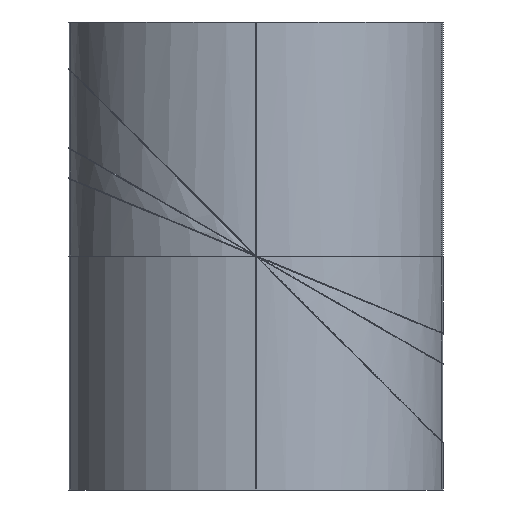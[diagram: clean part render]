
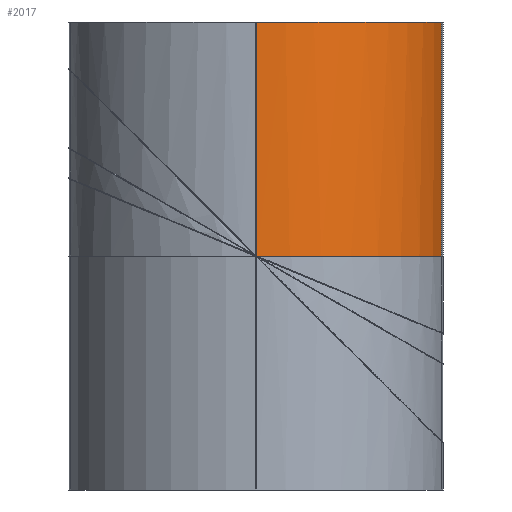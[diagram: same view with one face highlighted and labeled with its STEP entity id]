
A CAD part, front view. The second image highlights one B-rep face of the part: STEP entity #2017.
In plain terms, the highlighted cylindrical face has radius 120.5 mm (diameter 241 mm), a partial arc.
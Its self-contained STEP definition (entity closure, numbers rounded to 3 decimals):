
#47=CIRCLE($,#2194,120.5);
#48=CIRCLE($,#2195,120.5);
#81=CYLINDRICAL_SURFACE($,#2192,120.5);
#148=FACE_OUTER_BOUND($,#263,.T.);
#263=EDGE_LOOP($,(#1418,#1419,#1420,#1421,#1422));
#369=ELLIPSE($,#2193,130.428,120.5);
#496=LINE($,#3198,#644);
#506=LINE($,#3227,#654);
#644=VECTOR($,#2553,149.833);
#654=VECTOR($,#2575,150.);
#802=VERTEX_POINT($,#3196);
#803=VERTEX_POINT($,#3197);
#814=VERTEX_POINT($,#3222);
#815=VERTEX_POINT($,#3224);
#816=VERTEX_POINT($,#3226);
#1025=EDGE_CURVE($,#802,#803,#496,.T.);
#1037=EDGE_CURVE($,#803,#814,#369,.T.);
#1038=EDGE_CURVE($,#814,#815,#47,.T.);
#1039=EDGE_CURVE($,#815,#816,#506,.T.);
#1040=EDGE_CURVE($,#816,#802,#48,.T.);
#1418=ORIENTED_EDGE($,*,*,#1025,.T.);
#1419=ORIENTED_EDGE($,*,*,#1037,.T.);
#1420=ORIENTED_EDGE($,*,*,#1038,.T.);
#1421=ORIENTED_EDGE($,*,*,#1039,.T.);
#1422=ORIENTED_EDGE($,*,*,#1040,.T.);
#2017=ADVANCED_FACE($,(#148),#81,.T.);
#2192=AXIS2_PLACEMENT_3D($,#3221,#2569,#2570);
#2193=AXIS2_PLACEMENT_3D($,#3223,#2571,#2572);
#2194=AXIS2_PLACEMENT_3D($,#3225,#2573,#2574);
#2195=AXIS2_PLACEMENT_3D($,#3228,#2576,#2577);
#2553=DIRECTION($,(0.,0.,-1.));
#2569=DIRECTION('center_axis',(0.,0.,1.));
#2570=DIRECTION('ref_axis',(-1.,0.,0.));
#2571=DIRECTION('center_axis',(0.383,0.,0.924));
#2572=DIRECTION('ref_axis',(-0.924,0.,0.383));
#2573=DIRECTION('center_axis',(0.,0.,1.));
#2574=DIRECTION('ref_axis',(-1.,0.,0.));
#2575=DIRECTION($,(0.,0.,1.));
#2576=DIRECTION('center_axis',(0.,0.,-1.));
#2577=DIRECTION('ref_axis',(-1.,0.,0.));
#3196=CARTESIAN_POINT('',(0.25,-120.5,150.));
#3197=CARTESIAN_POINT('',(0.25,-120.5,0.167));
#3198=CARTESIAN_POINT($,(0.25,-120.5,0.));
#3221=CARTESIAN_POINT('Origin',(0.,0.,0.));
#3222=CARTESIAN_POINT('',(0.653,-120.498,0.));
#3223=CARTESIAN_POINT('Origin',(0.,0.,0.271));
#3224=CARTESIAN_POINT('',(118.829,-20.,0.));
#3225=CARTESIAN_POINT('Origin',(0.,0.,0.));
#3226=CARTESIAN_POINT('',(118.829,-20.,150.));
#3227=CARTESIAN_POINT($,(118.829,-20.,0.));
#3228=CARTESIAN_POINT('Origin',(0.,0.,150.));
